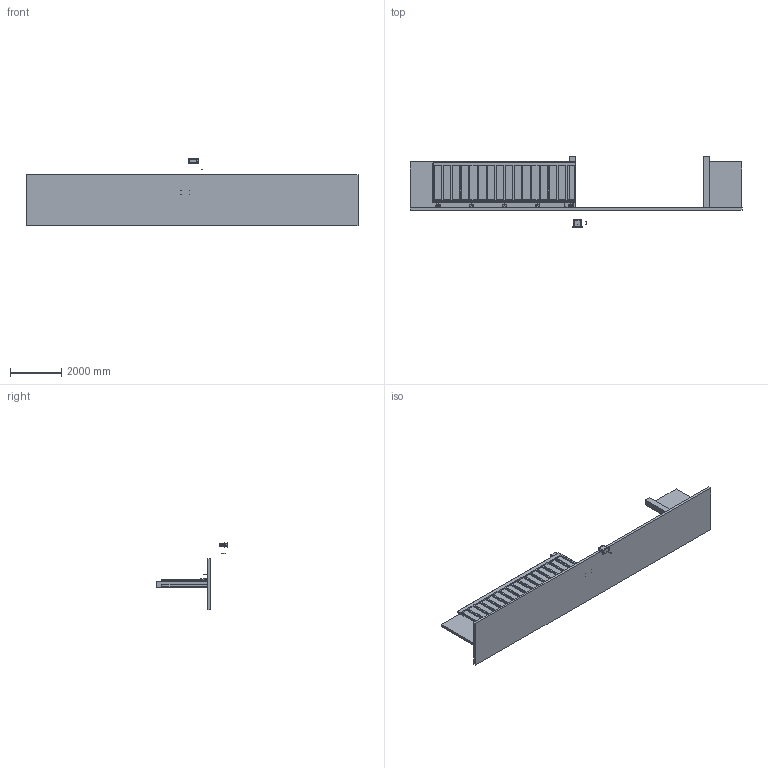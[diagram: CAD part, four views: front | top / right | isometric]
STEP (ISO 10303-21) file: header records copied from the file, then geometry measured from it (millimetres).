
FILE_DESCRIPTION (( 'STEP AP203' ), '1' );
FILE_NAME ('Portail_motorisé_5m_Candidat.STEP', '2025-11-28T15:05:10', ( '' ), ( '' ), 'SwSTEP 2.0', 'SolidWorks 2019', '' );
FILE_SCHEMA (( 'CONFIG_CONTROL_DESIGN' ));
Length unit declared in the file: millimetre
Products named in the file (12): Cr幦aill鋨e m=4 - 40 dents; Entretoise; Tige filetée M10_R‚aliste; Roue; Mur gauche; Bloc moteur; Mur droit; Portail_5m_D‚faut<Brut d''usinage>; Socle; Pilier; Portail_motorisé_5m_Candidat; Vis san fin m=2 - 1 filet(s)
Assembly tree (29 placements, depth 2):
  Portail_motorisé_5m_Candidat
    Socle
    Pilier  x2
    Mur droit
    Mur gauche
    Portail_5m_D‚faut<Brut d''usinage>
    Roue  x5
    Bloc moteur
    Vis san fin m=2 - 1 filet(s)
    Tige filetée M10_R‚aliste  x4
    Entretoise
    Cr幦aill鋨e m=4 - 40 dents  x11
Bounding box: 13000 x 2762.47 x 2640.8 mm (x, y, z)
Volume: 4223990163.3 mm3; surface area: 109496327 mm2
Topology: 29 solids, 29 shells, 5027 faces, 14964 edges, 9962 vertices
Faces by surface type: plane 2536, cylinder 2435, bspline 30, torus 10, sphere 8, cone 8
Entity records: 98876 total; most frequent: CARTESIAN_POINT 68202, ORIENTED_EDGE 6428, DIRECTION 5356, EDGE_CURVE 3214, VERTEX_POINT 2134, VECTOR 1868, LINE 1868, AXIS2_PLACEMENT_3D 1744
